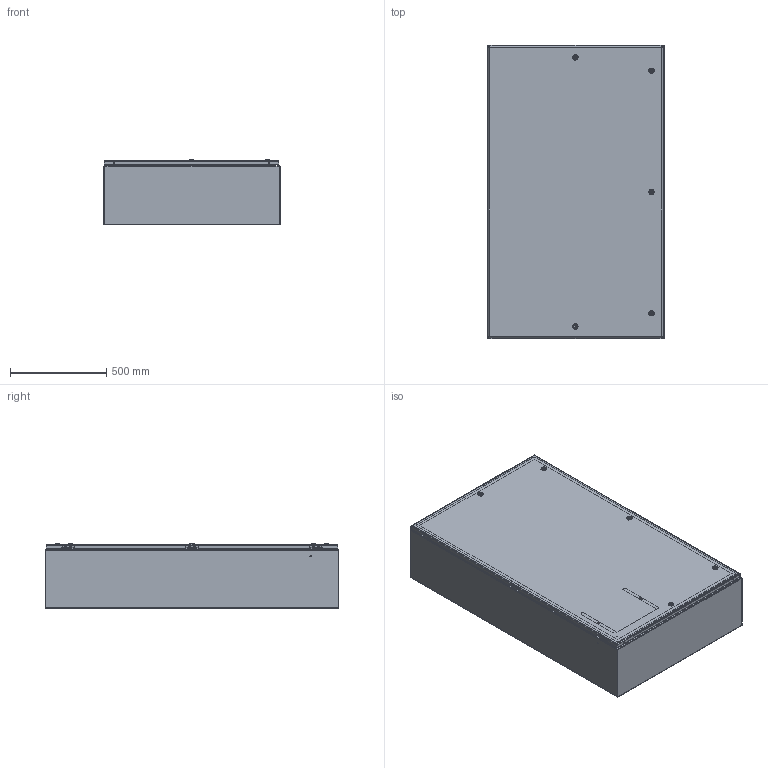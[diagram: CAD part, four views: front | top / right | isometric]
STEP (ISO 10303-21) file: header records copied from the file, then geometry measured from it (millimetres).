
FILE_DESCRIPTION((''),'2;1');
FILE_NAME('MODEL-205_ASM','2010-09-09T',('mikek'),(''),'PRO/ENGINEER BY PARAMETRIC TECHNOLOGY CORPORATION, 2009230','PRO/ENGINEER BY PARAMETRIC TECHNOLOGY CORPORATION, 2009230','');
FILE_SCHEMA(('AUTOMOTIVE_DESIGN { 1 0 10303 214 1 1 1 1 }'));
Length unit declared in the file: inch
Products named in the file (27): MODEL-205-BDY; MODEL-205-TP; MODEL-205-BTM; MODEL-205-DR; 101376; 101376-PIN; 101670; 102140; 102483; 101686; 103294_ASM; 100837; 111267; 100877; 103306_ASM; 101653; 100794_SHAFT; 100794_INSERT; 102804_CAM_28MM; 100794_NUT; 100794_SCREW; 100794_ASM; 102297; 102300; 101974; MODEL-205-GSKT; MODEL-205_ASM
Assembly tree (47 placements, depth 3):
  MODEL-205_ASM
    MODEL-205-BDY
    MODEL-205-TP
    MODEL-205-BTM
    MODEL-205-DR
    103294_ASM  x3
      101376
      101376-PIN
      101670
      102140
      102483
      101686
    101686  x3
    100837  x4
    103306_ASM
      111267
      100877  x2
    101653  x8
    100794_ASM  x5
      100794_SHAFT
      100794_INSERT
      102804_CAM_28MM
      100794_NUT
      100794_SCREW
    102297
    102300
    101974
    MODEL-205-GSKT
Bounding box: 914.4 x 1524 x 336.71 mm (x, y, z)
Volume: 10540412.4 mm3; surface area: 9543513.8 mm2
Topology: 56 solids, 81 shells, 4706 faces, 12079 edges, 7675 vertices
Faces by surface type: plane 2737, cylinder 1305, bspline 233, torus 231, cone 141, sphere 55, extrusion 4
Entity records: 80650 total; most frequent: CARTESIAN_POINT 16864, ORIENTED_EDGE 10636, DIRECTION 10187, EDGE_CURVE 5322, PRESENTATION_STYLE_ASSIGNMENT 4005, STYLED_ITEM 3969, CURVE_STYLE 3946, VECTOR 3825
